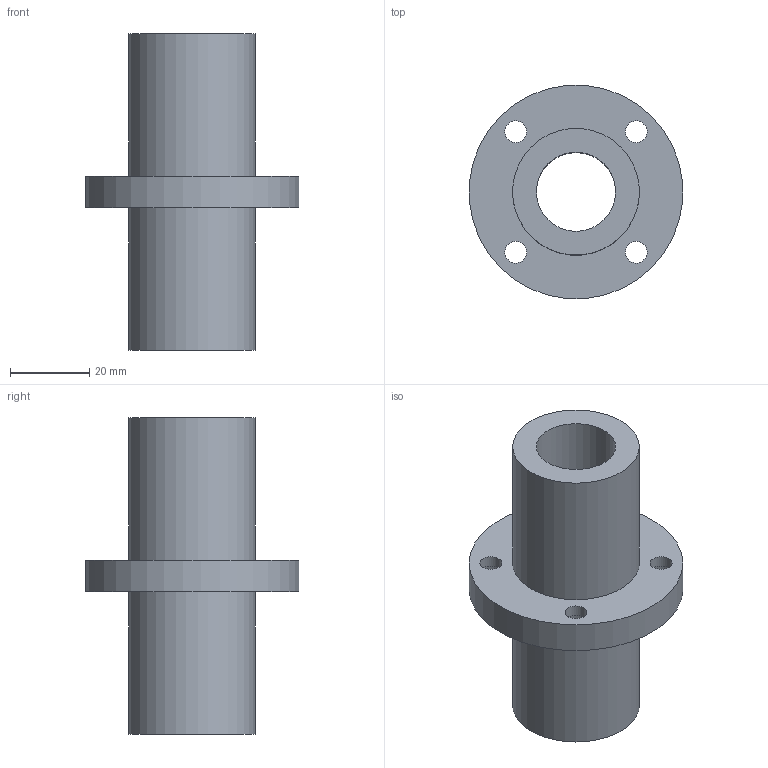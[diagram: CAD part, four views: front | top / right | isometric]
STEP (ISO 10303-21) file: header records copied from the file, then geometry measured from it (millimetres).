
FILE_DESCRIPTION(/* description */ (''),/* implementation_level */ '2;1');
FILE_NAME(/* name */ 'LMFM20LUU',/* time_stamp */ '2019-07-03T11:00:59+02:00',/* author */ ('VĂ©gh MĂˇtĂ©'),/* organization */ ('Bearing Kft'),/* preprocessor_version */ 'ST-DEVELOPER v16.7',/* originating_system */ 'DEX',/* authorisation */ $);
FILE_SCHEMA (('AUTOMOTIVE_DESIGN {1 0 10303 214 3 1 1}'));
Length unit declared in the file: millimetre
Products named in the file (1): LMFM20LUU
Bounding box: 53.79 x 53.79 x 80 mm (x, y, z)
Volume: 49517.8 mm3; surface area: 18185.4 mm2
Topology: 1 solids, 1 shells, 338 faces, 850 edges, 568 vertices
Faces by surface type: plane 265, bspline 59, cylinder 14
Full cylindrical faces by diameter (mm): 5.5 x4, 9 x4, 20 x1, 32 x2, 54 x1
Entity records: 12901 total; most frequent: CARTESIAN_POINT 5175, ORIENTED_EDGE 1662, DIRECTION 1301, EDGE_CURVE 831, LINE 685, VECTOR 685, VERTEX_POINT 564, EDGE_LOOP 417
